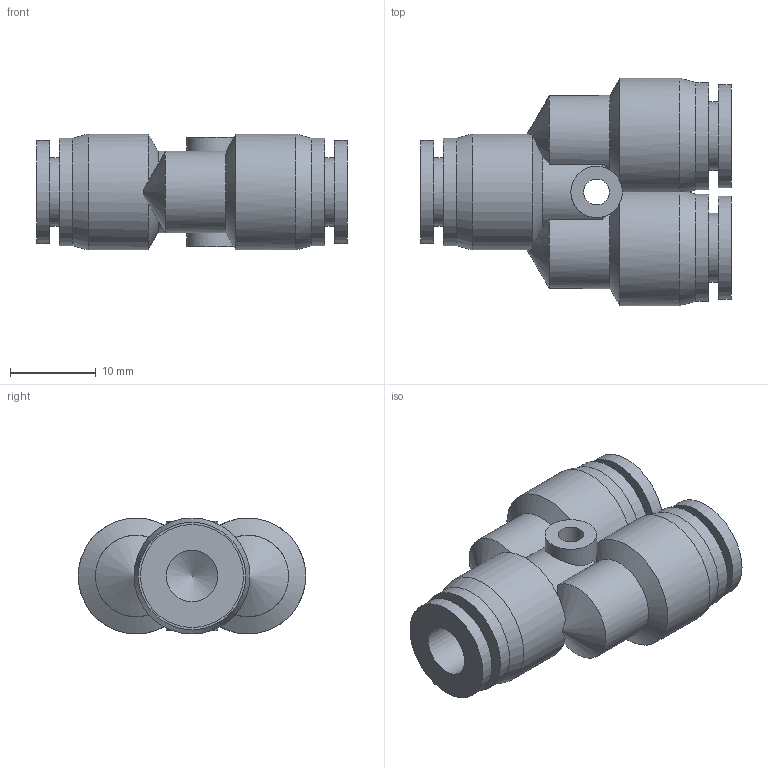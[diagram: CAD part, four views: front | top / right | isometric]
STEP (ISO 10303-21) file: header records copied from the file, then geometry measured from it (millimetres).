
FILE_DESCRIPTION((''),'2;1');
FILE_NAME('S:\UTecnico\ArchivioUT\Speciali Clienti\Speciali KONFIT\Plastica\RP\06\RP 73\RP730006.stp','2012-05-07T11:13:31',('UT5'),(''),'Autodesk Inventor 2012','Autodesk Inventor 2012','');
FILE_SCHEMA(('AUTOMOTIVE_DESIGN { 1 0 10303 214 1 1 1 1 }'));
Length unit declared in the file: millimetre
Products named in the file (1): RP730006
Bounding box: 36.2 x 26.5 x 13.5 mm (x, y, z)
Volume: 5187.8 mm3; surface area: 4263.3 mm2
Topology: 1 solids, 1 shells, 49 faces, 115 edges, 74 vertices
Faces by surface type: cylinder 22, cone 16, plane 11
Full cylindrical faces by diameter (mm): 3 x1, 6 x5, 8 x3, 12 x3, 12.5 x3, 13.5 x1
Entity records: 1482 total; most frequent: CARTESIAN_POINT 447, DIRECTION 196, ORIENTED_EDGE 168, AXIS2_PLACEMENT_3D 95, EDGE_CURVE 84, EDGE_LOOP 79, VERTEX_POINT 65, FACE_OUTER_BOUND 49
